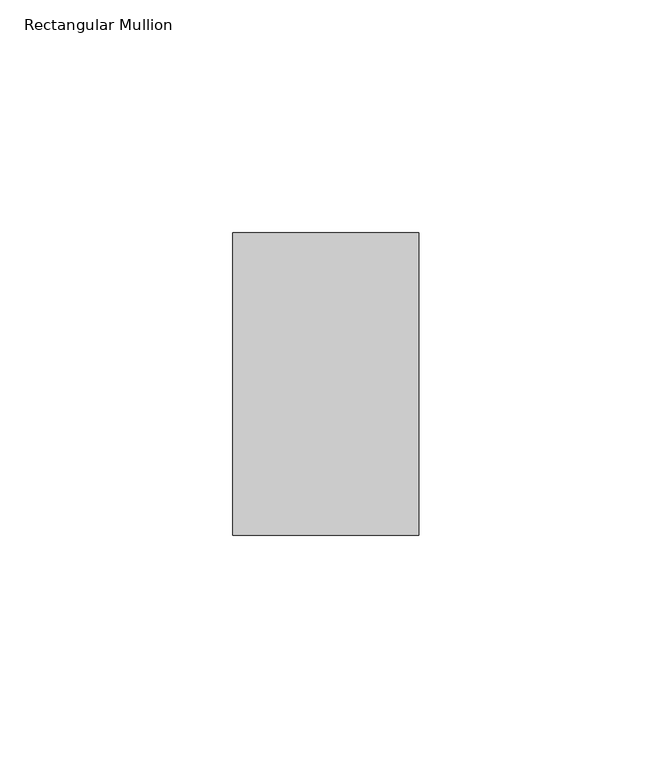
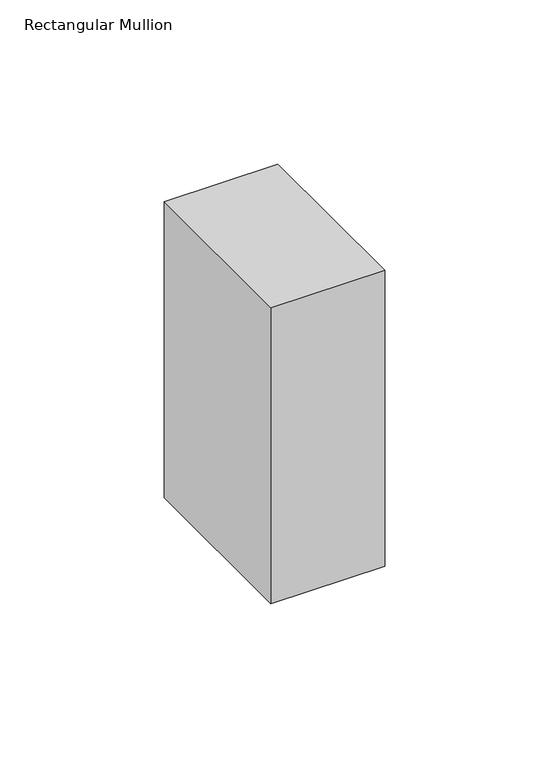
"""IFC4 building model written with IfcOpenShell, lengths in millimetres: member geometry, Rectangular Mullion : Batten_Timber_Modinex_Austratus_Grid_Fascia_40x65_AlaskanYellowCedar."""

from ifc_helpers import new_model, si_unit, frame, origin, place, context, project, spatial, polyline, outline, extrude, source, transform, mapped, element, save


def rectangular_mullion_97e353d0(model_context):
    return source(origin(), model_context, "Body", "SweptSolid", [
        extrude(outline(polyline([(-20.0, 65.0), (20.0, 65.0), (20.0, 0.0), (-20.0, 0.0), (-20.0, 65.0)])), frame((0.0, 0.0, -110.0), z_axis=(0.0, 0.0, 1.0), x_axis=(1.0, 0.0, 0.0)), (0.0, 0.0, 1.0), 110.0),
    ])


if __name__ == "__main__":
    model = new_model("IFC4")
    model_context = context("Model", 3, world=origin())
    ifc_project = project(units=[si_unit("LENGTHUNIT", "METRE", prefix="MILLI")], contexts=[model_context])
    site = spatial("IfcSite", under=ifc_project)
    building = spatial("IfcBuilding", under=site)
    placement = place(None, origin())
    rectangular_mullion_shape = rectangular_mullion_97e353d0(model_context)
    element("IfcMember", 1, ObjectType="Rectangular Mullion : Batten_Timber_Modinex_Austratus_Grid_Fascia_40x65_AlaskanYellowCedar", at=placement, inside=building, context=model_context, shape_type="MappedRepresentation", body=[
        mapped(rectangular_mullion_shape, transform((0.0, 0.0, 0.0), x_axis=(1.0, 0.0, 0.0), y_axis=(0.0, 1.0, 0.0), z_axis=(0.0, 0.0, 1.0))),
    ])
    save(model, "model.ifc")
